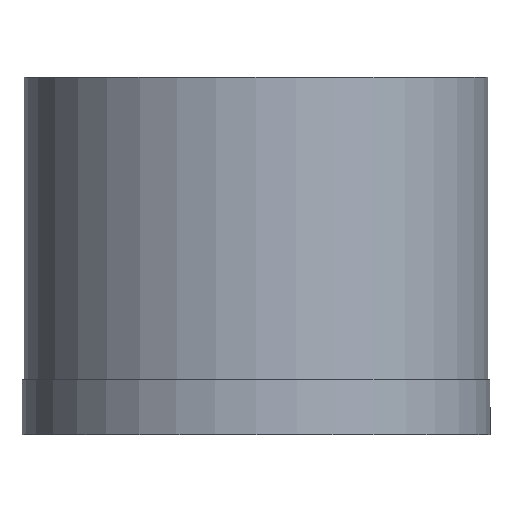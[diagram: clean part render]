
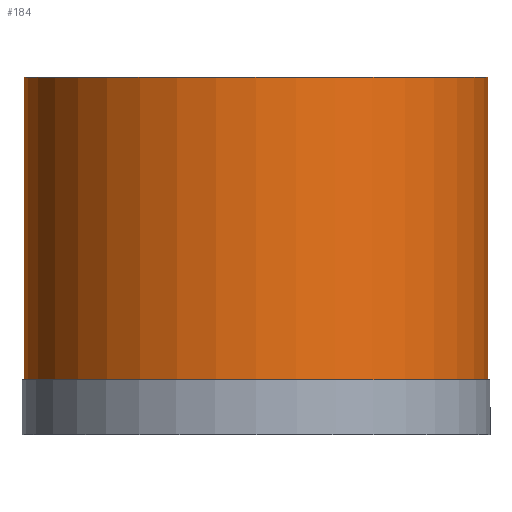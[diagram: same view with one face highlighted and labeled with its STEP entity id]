
A CAD part, front view. The second image highlights one B-rep face of the part: STEP entity #184.
In plain terms, the highlighted cylindrical face has radius 8.427 mm (diameter 16.854 mm), a full revolution.
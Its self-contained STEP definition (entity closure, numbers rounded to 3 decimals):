
#6 = CYLINDRICAL_SURFACE ( 'NONE', #87, 8.427 ) ;
#23 = EDGE_LOOP ( 'NONE', ( #110 ) ) ;
#34 = ORIENTED_EDGE ( 'NONE', *, *, #207, .F. ) ;
#36 = DIRECTION ( 'NONE',  ( 0., 0., -1. ) ) ;
#69 = DIRECTION ( 'NONE',  ( -1., 0., 0. ) ) ;
#73 = AXIS2_PLACEMENT_3D ( 'NONE', #76, #157, #130 ) ;
#76 = CARTESIAN_POINT ( 'NONE',  ( 0., 0., 2. ) ) ;
#87 = AXIS2_PLACEMENT_3D ( 'NONE', #166, #176, #95 ) ;
#95 = DIRECTION ( 'NONE',  ( -1., 0., 0. ) ) ;
#97 = FACE_OUTER_BOUND ( 'NONE', #23, .T. ) ;
#110 = ORIENTED_EDGE ( 'NONE', *, *, #144, .T. ) ;
#112 = VERTEX_POINT ( 'NONE', #213 ) ;
#115 = EDGE_LOOP ( 'NONE', ( #34 ) ) ;
#130 = DIRECTION ( 'NONE',  ( -1., 0., 0. ) ) ;
#132 = CIRCLE ( 'NONE', #73, 8.427 ) ;
#136 = FACE_OUTER_BOUND ( 'NONE', #115, .T. ) ;
#144 = EDGE_CURVE ( 'NONE', #112, #112, #185, .T. ) ;
#157 = DIRECTION ( 'NONE',  ( 0., 0., -1. ) ) ;
#161 = AXIS2_PLACEMENT_3D ( 'NONE', #228, #36, #69 ) ;
#166 = CARTESIAN_POINT ( 'NONE',  ( 0., 0., 0. ) ) ;
#176 = DIRECTION ( 'NONE',  ( 0., 0., -1. ) ) ;
#184 = ADVANCED_FACE ( 'NONE', ( #97, #136 ), #6, .T. ) ;
#185 = CIRCLE ( 'NONE', #161, 8.427 ) ;
#186 = CARTESIAN_POINT ( 'NONE',  ( -8.427, 0., 2. ) ) ;
#207 = EDGE_CURVE ( 'NONE', #227, #227, #132, .T. ) ;
#213 = CARTESIAN_POINT ( 'NONE',  ( -8.427, 0., 13. ) ) ;
#227 = VERTEX_POINT ( 'NONE', #186 ) ;
#228 = CARTESIAN_POINT ( 'NONE',  ( 0., 0., 13. ) ) ;
